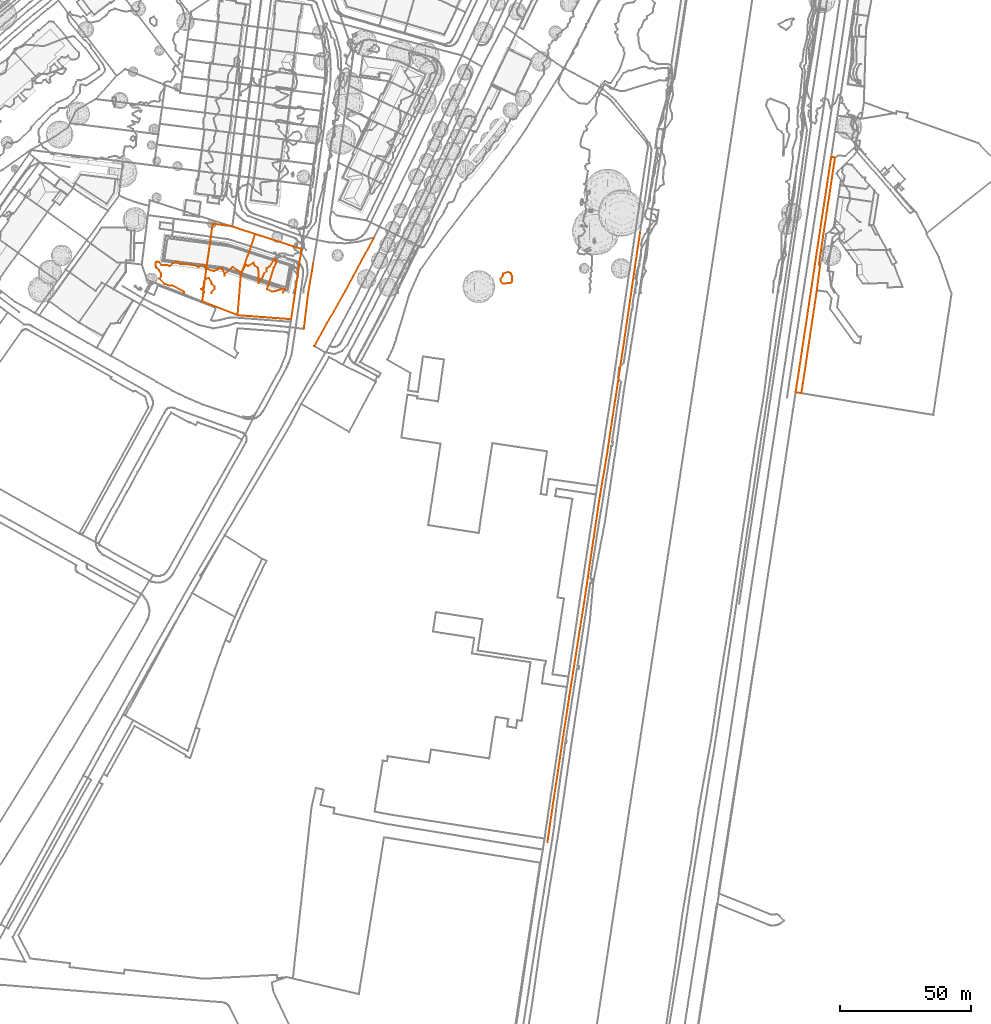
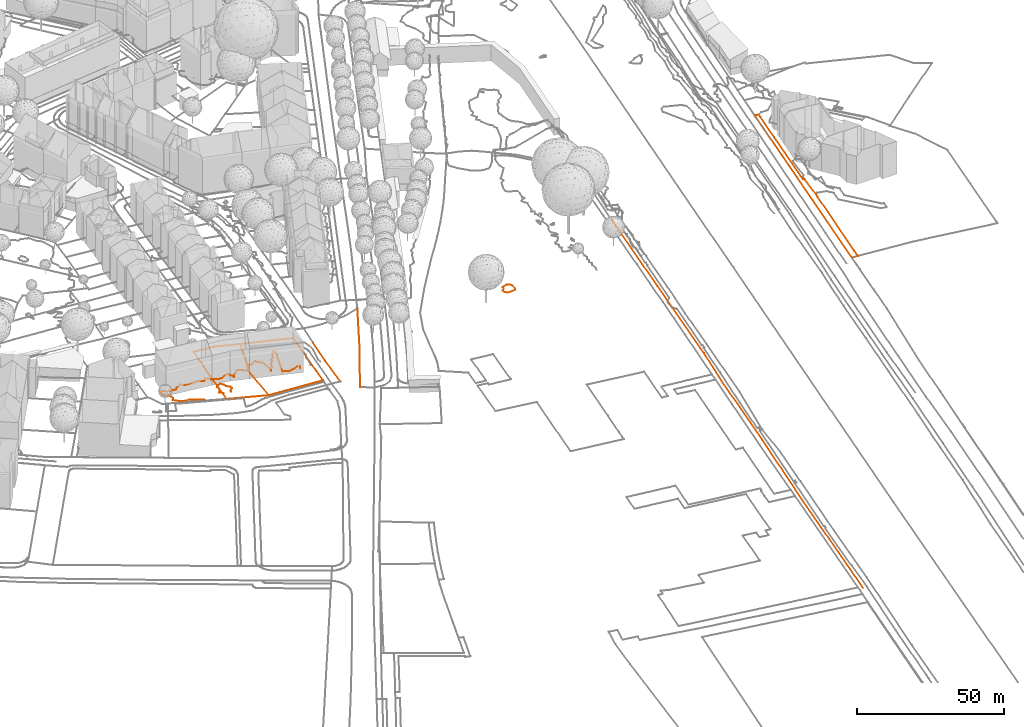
# Not in any storey, part 130 of 477: 5 geographic elements, 4 civil elements.
"""IFC4 model written with IfcOpenShell, lengths in metres."""

from ifc_helpers import new_model, entity, si_unit, frame, origin_with_axes, place, context, subcontext, project, spatial, element, save


model = new_model("IFC4")

# Units and contexts
model_context = context("Model", 3, precision=1e-05, world=origin_with_axes())
body_context = subcontext(model_context, "Body", "Model", "MODEL_VIEW")
ifc_project = project(units=[si_unit("AREAUNIT", "SQUARE_METRE"), si_unit("LENGTHUNIT", "METRE")], contexts=[model_context])

# Sites
site_1_placement = place(None, origin_with_axes())
site_1 = spatial("IfcSite", under=ifc_project, at=site_1_placement, Name="Topoexport Site")
site_2_placement = place(site_1_placement, origin_with_axes())
site_2 = spatial("IfcSite", under=site_1, at=site_2_placement, Name="TPX_ROADS")

# Civil elements
civil_element_1_placement = place(site_2_placement, frame((568.6837320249, -210.7802504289, 502.245), z_axis=(0.0, 0.0, 1.0), x_axis=(1.0, 0.0, 0.0)))
element("IfcCivilElement", 1, at=civil_element_1_placement, inside=site_2, Name="Road 115", ObjectType="ROAD", context=body_context, shape_type="GeometricCurveSet", body=[
    entity("IfcGeometricCurveSet", [entity("IfcIndexedPolyCurve", entity("IfcCartesianPointList3D", [[0.0, 0.0, 0.0], [2.0179999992, 14.025999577, 0.154], [8.333000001, 55.7299983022, -0.285], [14.3530000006, 93.7619971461, -0.006], [19.638999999, 129.8859960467, 0.001], [22.7229999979, 148.0949954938, 0.165], [29.1840000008, 190.8269941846, -0.209], [35.0579999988, 230.9149929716, -0.136], [35.2850000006, 232.4229929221, -0.136]]))]),
])
civil_element_2_placement = place(site_2_placement, frame((479.832732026, -21.4962561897, 502.279), z_axis=(0.0, 0.0, 1.0), x_axis=(1.0, 0.0, 0.0)))
element("IfcCivilElement", 2, at=civil_element_2_placement, inside=site_2, Name="Road 119", ObjectType="ROAD", context=body_context, shape_type="GeometricCurveSet", body=[
    entity("IfcGeometricCurveSet", [entity("IfcIndexedPolyCurve", entity("IfcCartesianPointList3D", [[22.7479999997, 41.4179987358, -0.256], [11.8949999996, 21.1459993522, 0.017], [4.6989999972, 8.5169997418, -0.009], [0.0, 0.0, 0.0]]))]),
])
civil_element_3_placement = place(site_2_placement, frame((475.8237320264, -14.9482563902, 502.105), z_axis=(0.0, 0.0, 1.0), x_axis=(1.0, 0.0, 0.0)))
element("IfcCivilElement", 3, at=civil_element_3_placement, inside=site_2, Name="Road 133", ObjectType="ROAD", context=body_context, shape_type="GeometricCurveSet", body=[
    entity("IfcGeometricCurveSet", [entity("IfcIndexedPolyCurve", entity("IfcCartesianPointList3D", [[0.0, 0.0, 0.0], [1.6600000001, 13.4229995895, -0.152], [3.5689999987, 24.9549992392, -0.184]]))]),
])

# Site
site_3_placement = place(site_1_placement, origin_with_axes())
site_3 = spatial("IfcSite", under=site_1, at=site_3_placement, Name="TPX_ROADS_OUTLINES")

# Civil element
civil_element_4_placement = place(site_3_placement, frame((663.3037320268, -39.1152839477, 502.6944244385), z_axis=(0.0, 0.0, 1.0), x_axis=(1.0, 0.0, 0.0)))
element("IfcCivilElement", 4, at=civil_element_4_placement, inside=site_3, Name="Roads Outline 109", ObjectType="ROAD", context=body_context, shape_type="GeometricCurveSet", body=[
    entity("IfcGeometricCurveSet", [entity("IfcIndexedPolyCurve", entity("IfcCartesianPointList3D", [[0.0, 0.0, 0.0], [13.5439999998, 89.6980000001, 0.0473368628], [14.9669999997, 89.483, 0.038663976], [14.7549999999, 87.9000000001, 0.0702691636], [12.841, 75.1810000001, -0.0234521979], [8.8589999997, 48.6950000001, 0.0097926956], [9.1749999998, 48.2950000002, 0.0225422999], [9.3489999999, 48.4370000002, 0.0313423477], [7.9750000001, 38.2370000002, 0.3508599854], [7.7420000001, 36.662, 0.299588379], [2.7229999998, 3.1810000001, 0.0666755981], [2.1939999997, -0.318, 0.0638665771], [2.1069999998, -0.3489999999, 0.063404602], [0.0, 0.0, 0.0]]))]),
])

# Site
site_4_placement = place(site_1_placement, origin_with_axes())
site_4 = spatial("IfcSite", under=site_1, at=site_4_placement, Name="TPX_CADASTRES")

# Geographic elements
geographic_element_1_placement = place(site_4_placement, frame((437.1067320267, -4.4812839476, 501.9895917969), z_axis=(0.0, 0.0, 1.0), x_axis=(1.0, 0.0, 0.0)))
element("IfcGeographicElement", 5, at=geographic_element_1_placement, inside=site_4, Name="Cadastre 161", PredefinedType="NOTDEFINED", context=body_context, shape_type="GeometricCurveSet", body=[
    entity("IfcGeometricCurveSet", [entity("IfcIndexedPolyCurve", entity("IfcCartesianPointList3D", [[0.0, 0.0, 0.0], [1.6409999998, 13.1400000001, 0.0469457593], [3.051, 22.6899999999, 0.2835664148], [3.9819999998, 29.6000000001, 0.3172305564], [10.8110000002, 28.71, 0.3478100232], [11.5010000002, 28.49, 0.4104794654], [20.1800000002, 25.6799999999, 0.2295655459], [17.9300000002, 19.0600000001, 0.1111383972], [14.719, 10.0800000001, -0.0463897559], [13.4780000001, -5.26, 0.0255452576], [0.0, 0.0, 0.0]]))]),
])
geographic_element_2_placement = place(site_4_placement, frame((450.5847320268, -9.7412839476, 502.0151370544), z_axis=(0.0, 0.0, 1.0), x_axis=(1.0, 0.0, 0.0)))
element("IfcGeographicElement", 6, at=geographic_element_2_placement, inside=site_4, Name="Cadastre 162", PredefinedType="NOTDEFINED", context=body_context, shape_type="GeometricCurveSet", body=[
    entity("IfcGeometricCurveSet", [entity("IfcIndexedPolyCurve", entity("IfcCartesianPointList3D", [[0.0, 0.0, 0.0], [1.2409999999, 15.3400000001, -0.0719350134], [4.452, 24.3200000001, 0.0855931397], [6.702, 30.9399999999, 0.2040202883], [24.3500000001, 25.22, -0.0090621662], [20.429, -1.53, -0.0055358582], [0.0, 0.0, 0.0]]))]),
])

# Site
site_5_placement = place(site_1_placement, origin_with_axes())
site_5 = spatial("IfcSite", under=site_1, at=site_5_placement, Name="TPX_CONTOUR_LINES")

# Geographic elements
geographic_element_3_placement = place(site_5_placement, frame((550.7903274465, 4.1707160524, 502.0), z_axis=(0.0, 0.0, 1.0), x_axis=(1.0, 0.0, 0.0)))
element("IfcGeographicElement", 7, at=geographic_element_3_placement, inside=site_5, Name="Contour Line 502.0 m", PredefinedType="NOTDEFINED", context=body_context, shape_type="GeometricCurveSet", body=[
    entity("IfcGeometricCurveSet", [entity("IfcIndexedPolyCurve", entity("IfcCartesianPointList3D", [[4.3487464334, -1.0, 0.0], [3.8874045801, -1.624567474, 0.0], [0.8874045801, -1.8645948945, 0.0], [0.1723976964, -1.0, 0.0], [0.0, 0.0, 0.0], [0.8917713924, 1.0, 0.0], [1.0739873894, 2.0, 0.0], [2.8874045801, 2.580736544, 0.0], [4.0425894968, 2.0, 0.0], [4.3814977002, 1.0, 0.0], [4.3487464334, -1.0, 0.0]]))]),
])
geographic_element_4_placement = place(site_5_placement, frame((436.7353136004, 0.1707160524, 502.0), z_axis=(0.0, 0.0, 1.0), x_axis=(1.0, 0.0, 0.0)))
element("IfcGeographicElement", 8, at=geographic_element_4_placement, inside=site_5, Name="Contour Line 502.0 m", PredefinedType="NOTDEFINED", context=body_context, shape_type="GeometricCurveSet", body=[
    entity("IfcGeometricCurveSet", [entity("IfcIndexedPolyCurve", entity("IfcCartesianPointList3D", [[1.0951402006, -1.5, 0.0], [1.0951402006, -1.0, 0.0], [0.0, 0.0, 0.0], [0.8246299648, 1.0, 0.0], [1.1032699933, 2.0, 0.0], [1.0033643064, 3.0, 0.0], [1.9424184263, 4.0394614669, 0.0], [2.9424184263, 4.3169877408, 0.0], [3.7888821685, 3.0, 0.0], [3.9480206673, 2.0, 0.0], [5.0932520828, 1.0, 0.0], [5.0093033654, 0.0, 0.0], [3.8606002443, -1.0, 0.0], [3.8606002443, -1.5, 0.0]]))]),
])
geographic_element_5_placement = place(site_5_placement, frame((419.3698819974, 9.1707160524, 502.0), z_axis=(0.0, 0.0, 1.0), x_axis=(1.0, 0.0, 0.0)))
element("IfcGeographicElement", 9, at=geographic_element_5_placement, inside=site_5, Name="Contour Line 502.0 m", PredefinedType="NOTDEFINED", context=body_context, shape_type="GeometricCurveSet", body=[
    entity("IfcGeometricCurveSet", [entity("IfcIndexedPolyCurve", entity("IfcCartesianPointList3D", [[48.6013347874, -10.5, 0.0], [48.6013347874, -10.0, 0.0], [49.2974796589, -9.0, 0.0], [48.3078500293, -8.760830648, 0.0], [46.3078500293, -9.5408822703, 0.0], [44.3078500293, -9.9264264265, 0.0], [42.4322536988, -9.0, 0.0], [44.9647180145, -1.0, 0.0], [45.8710429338, 1.0, 0.0], [45.9053254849, 2.0, 0.0], [45.3078500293, 2.755319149, 0.0], [43.3078500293, -0.4592198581, 0.0], [42.3635775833, -1.0, 0.0], [42.3476290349, -2.0, 0.0], [41.2711329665, -3.0, 0.0], [40.5150743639, -5.0, 0.0], [39.3187286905, -6.0, 0.0], [39.3078500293, -6.5652173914, 0.0], [39.0990215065, -1.0, 0.0], [37.6908287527, 0.0, 0.0], [37.3078500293, 1.1542130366, 0.0], [35.3078500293, -0.1521739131, 0.0], [34.3078500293, 0.3542553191, 0.0], [33.3078500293, -1.5217853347, 0.0], [32.3078500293, -2.5790476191, 0.0], [29.3078500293, -0.5482233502, 0.0], [26.4104587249, -3.0, 0.0], [26.3078500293, -3.7866666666, 0.0], [26.2633553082, -3.0, 0.0], [25.3078500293, -0.988410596, 0.0], [24.3078500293, -1.0917532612, 0.0], [22.3078500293, -2.0170283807, 0.0], [21.3078500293, -1.9472132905, 0.0], [19.0096716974, -1.0, 0.0], [18.3078500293, 0.1128404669, 0.0], [17.3078500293, 0.4297713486, 0.0], [16.3078500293, -0.6127893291, 0.0], [14.3078500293, 0.4304235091, 0.0], [9.3078500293, 0.6007497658, 0.0], [8.3078500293, 1.6269393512, 0.0], [6.3078500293, 0.7155232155, 0.0], [5.3078500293, -0.2254947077, 0.0], [4.3078500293, 0.2415094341, 0.0], [2.3078500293, 0.2742340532, 0.0], [1.3078500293, 1.3107088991, 0.0], [0.3078500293, 1.5186766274, 0.0], [0.0033387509, 1.0, 0.0], [0.0, 0.0, 0.0], [0.3078500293, -0.9325643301, 0.0], [1.3078500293, -1.7244691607, 0.0], [1.9949665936, -3.0, 0.0], [2.1371913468, -4.0, 0.0], [1.3242973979, -5.0, 0.0], [3.3359112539, -7.0, 0.0], [5.3078500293, -7.6316355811, 0.0], [6.3078500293, -7.5403244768, 0.0], [10.8503749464, -10.0, 0.0], [10.8503749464, -10.5, 0.0]]))]),
])

save(model, "model.ifc")
